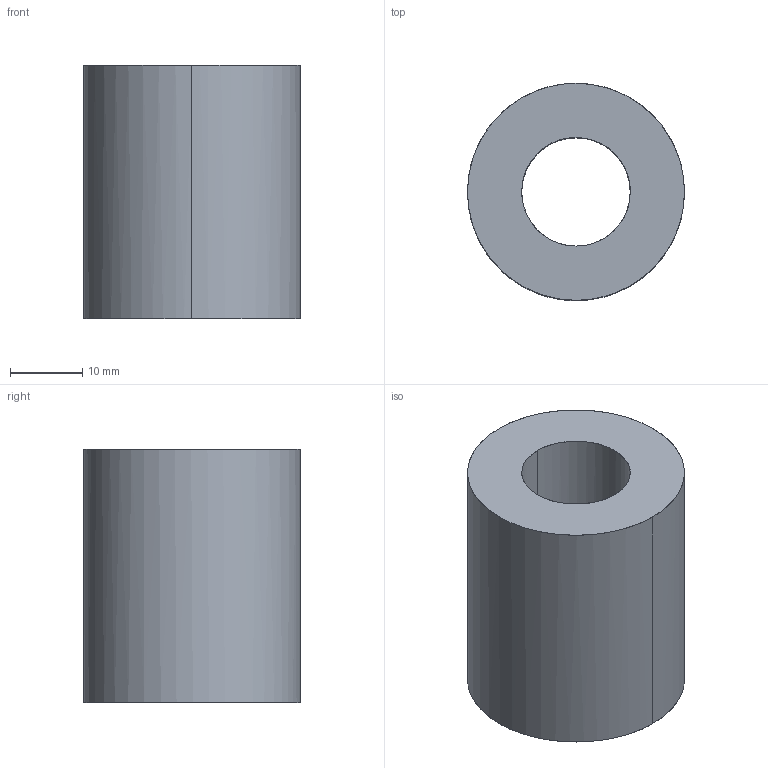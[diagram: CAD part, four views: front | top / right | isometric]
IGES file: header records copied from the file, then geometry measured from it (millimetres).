
Global section: file name: E:\UnigraphicsGraphicData\MISUMI_PRESS-PARTS\IGES\3d_swz30-35_00779_r00.igs; native system: NX V5.0; preprocessor: UGS NX IGES V5.0; author: MISUMI; date: 20110105.163304; units: millimetre
Bounding box: 30 x 30 x 35 mm (x, y, z)
Surface area: 6007.4 mm2 (no closed solid volume)
Topology: 0 solids, 0 shells, 6 faces, 64 edges, 64 vertices
Faces by surface type: bspline 6
